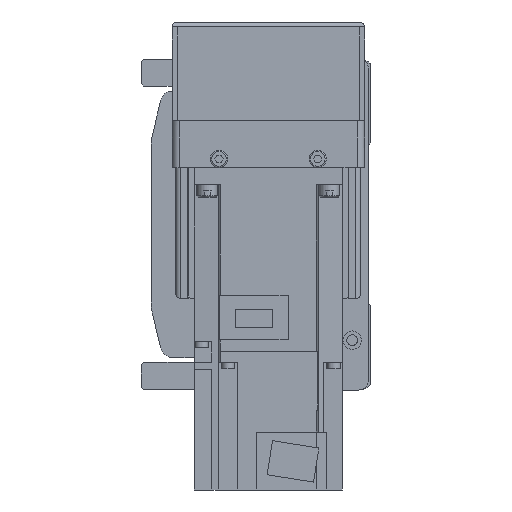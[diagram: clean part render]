
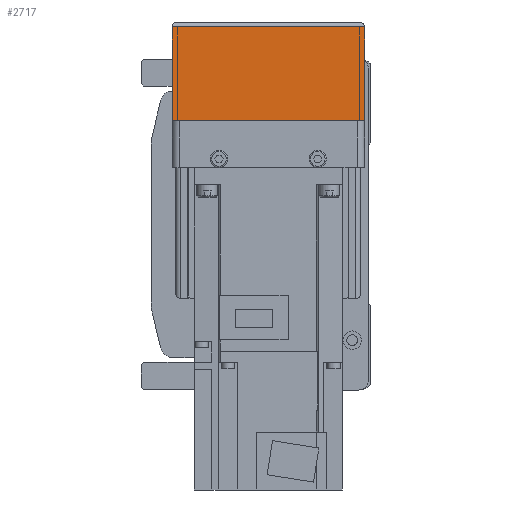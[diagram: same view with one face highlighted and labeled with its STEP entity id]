
A CAD part, left-side view. The second image highlights one B-rep face of the part: STEP entity #2717.
In plain terms, the highlighted planar face has unit normal (-1, 0, 0).
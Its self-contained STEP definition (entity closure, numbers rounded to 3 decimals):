
#2717 = ADVANCED_FACE( '', ( #5723 ), #5724, .F. );
#5723 = FACE_OUTER_BOUND( '', #8917, .T. );
#5724 = PLANE( '', #8918 );
#8917 = EDGE_LOOP( '', ( #16580, #16581, #16582, #16583 ) );
#8918 = AXIS2_PLACEMENT_3D( '', #16584, #16585, #16586 );
#16580 = ORIENTED_EDGE( '', *, *, #20150, .F. );
#16581 = ORIENTED_EDGE( '', *, *, #21358, .F. );
#16582 = ORIENTED_EDGE( '', *, *, #19407, .T. );
#16583 = ORIENTED_EDGE( '', *, *, #18519, .F. );
#16584 = CARTESIAN_POINT( '', ( -158., 36., 7. ) );
#16585 = DIRECTION( '', ( 1., 0., 0. ) );
#16586 = DIRECTION( '', ( 0., 0., -1. ) );
#18519 = EDGE_CURVE( '', #22130, #22132, #22133, .T. );
#19407 = EDGE_CURVE( '', #22584, #22132, #23644, .T. );
#20150 = EDGE_CURVE( '', #24122, #22130, #24795, .T. );
#21358 = EDGE_CURVE( '', #22584, #24122, #26388, .T. );
#22130 = VERTEX_POINT( '', #27381 );
#22132 = VERTEX_POINT( '', #27384 );
#22133 = LINE( '', #27385, #27386 );
#22584 = VERTEX_POINT( '', #28134 );
#23644 = LINE( '', #29668, #29669 );
#24122 = VERTEX_POINT( '', #30316 );
#24795 = LINE( '', #31406, #31407 );
#26388 = LINE( '', #33634, #33635 );
#27381 = CARTESIAN_POINT( '', ( -158., -39., -12.1 ) );
#27384 = CARTESIAN_POINT( '', ( -158., -39., -50. ) );
#27385 = CARTESIAN_POINT( '', ( -158., -39., -12.1 ) );
#27386 = VECTOR( '', #34347, 1000. );
#28134 = CARTESIAN_POINT( '', ( -158., 39., -50. ) );
#29668 = CARTESIAN_POINT( '', ( -158., 40., -50. ) );
#29669 = VECTOR( '', #35493, 1000. );
#30316 = CARTESIAN_POINT( '', ( -158., 39., -12.1 ) );
#31406 = CARTESIAN_POINT( '', ( -158., 50., -12.1 ) );
#31407 = VECTOR( '', #36375, 1000. );
#33634 = CARTESIAN_POINT( '', ( -158., 39., -50. ) );
#33635 = VECTOR( '', #37705, 1000. );
#34347 = DIRECTION( '', ( 0., 0., -1. ) );
#35493 = DIRECTION( '', ( 0., -1., 0. ) );
#36375 = DIRECTION( '', ( 0., -1., 0. ) );
#37705 = DIRECTION( '', ( 0., 0., 1. ) );
